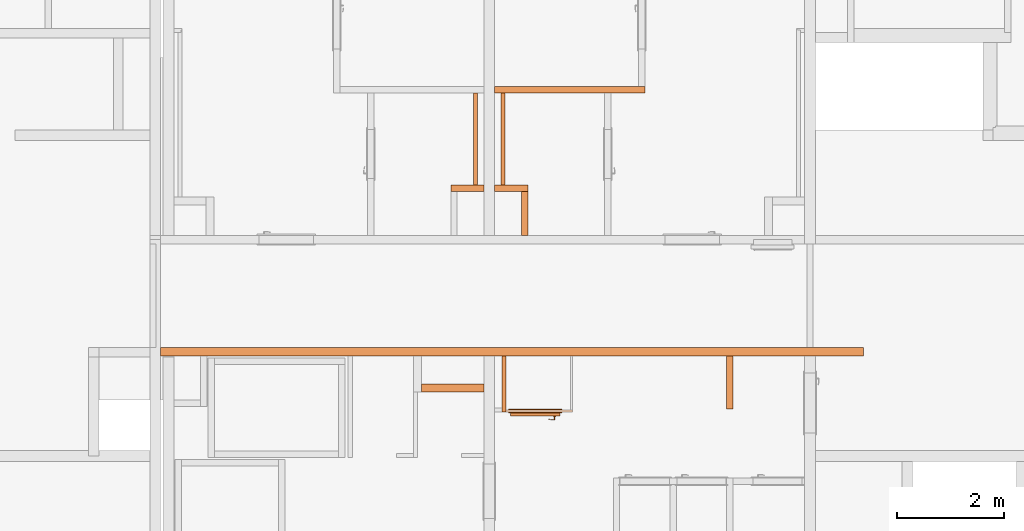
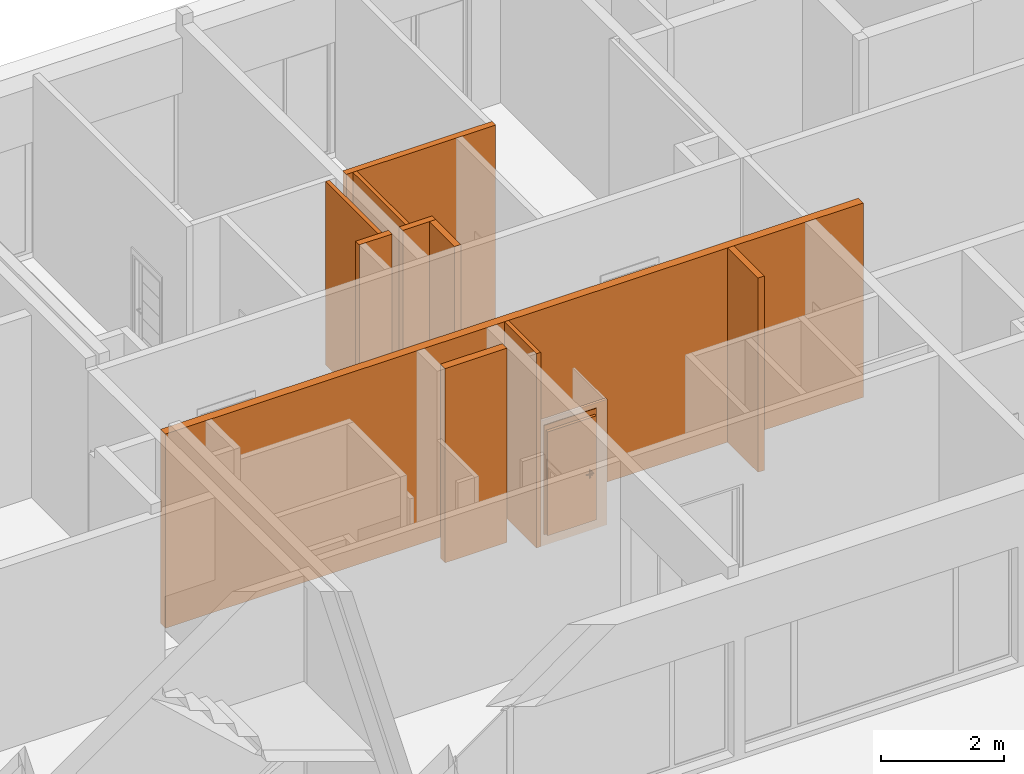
# One storey, part 35 of 46: 11 proxies, 1 opening, plus 1 element that does not belong to this part.
"""IFC2X3 building model written with IfcOpenShell, lengths in millimetres."""

from ifc_helpers import new_model, entity, si_unit, converted_unit, derived_unit, money_unit, direction, frame, origin_with_axes, origin_2d_with_axis, place, context, subcontext, project, spatial, rectangle, extrude, open_shell, faceted_brep, surface_model, material, material_list, type_object, element, fill, save


model = new_model("IFC2X3")

# Units and contexts
model_context = context("Model", 3, precision=0.01, world=origin_with_axes(), true_north=direction((0.34421633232, 0.938890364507)))
body_context = subcontext(model_context, "Body", "Model", "MODEL_VIEW")
ifc_project = project(units=[si_unit("LENGTHUNIT", "METRE", prefix="MILLI"), si_unit("AREAUNIT", "SQUARE_METRE"), si_unit("VOLUMEUNIT", "CUBIC_METRE"), converted_unit("PLANEANGLEUNIT", "DEGREE", entity("IfcPlaneAngleMeasure", 0.0174532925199), si_unit("PLANEANGLEUNIT", "RADIAN"), dimensions=[0, 0, 0, 0, 0, 0, 0]), si_unit("SOLIDANGLEUNIT", "STERADIAN"), money_unit("USD"), converted_unit("TIMEUNIT", "Year", entity("IfcTimeMeasure", 31556926.0), si_unit("TIMEUNIT", "SECOND"), dimensions=[0, 0, 1, 0, 0, 0, 0]), si_unit("MASSUNIT", "GRAM", prefix="KILO"), si_unit("THERMODYNAMICTEMPERATUREUNIT", "DEGREE_CELSIUS"), si_unit("LUMINOUSINTENSITYUNIT", "LUMEN"), si_unit("ENERGYUNIT", "JOULE", prefix="MEGA"), derived_unit("THERMALCONDUCTANCEUNIT", [(si_unit("POWERUNIT", "WATT"), 1), (si_unit("LENGTHUNIT", "METRE"), -1), (si_unit("THERMODYNAMICTEMPERATUREUNIT", "KELVIN"), -1)]), derived_unit("SPECIFICHEATCAPACITYUNIT", [(si_unit("ENERGYUNIT", "JOULE"), 1), (si_unit("MASSUNIT", "GRAM", prefix="KILO"), -1), (si_unit("THERMODYNAMICTEMPERATUREUNIT", "KELVIN"), -1)]), derived_unit("MASSDENSITYUNIT", [(si_unit("MASSUNIT", "GRAM", prefix="KILO"), 1), (si_unit("VOLUMEUNIT", "CUBIC_METRE"), -1)])], contexts=[model_context])

# Site, building, storey
site_placement = place(None, origin_with_axes())
site = spatial("IfcSite", under=ifc_project, at=site_placement, Name="USTRONIE MORSKIE", CompositionType="ELEMENT")
building_placement = place(site_placement, origin_with_axes())
building = spatial("IfcBuilding", under=site, at=building_placement, Name="Budynek", CompositionType="ELEMENT")
storey_placement = place(building_placement, origin_with_axes())
storey = spatial("IfcBuildingStorey", under=building, at=storey_placement, Name="PARTER", CompositionType="ELEMENT", Elevation=0.0)

# Proxies
ifc_material_1 = material(Name="Bloczki silikatowe")
building_element_proxy_type_1 = type_object("IfcBuildingElementProxyType", Name="Bloczki silikatowe 120", PredefinedType="NOTDEFINED")
proxy_1_placement = place(storey_placement, frame((373317.920919, 737751.199937, -230.0), z_axis=(0.0, 0.0, 1.0), x_axis=(1.0, 0.0, 0.0)))
element("IfcBuildingElementProxy", 1, at=proxy_1_placement, inside=storey, type_object=building_element_proxy_type_1, material=ifc_material_1, Name="SW-04", context=body_context, shape_type="Brep", body=[
    faceted_brep([(720.0, 120.0, 0.0), (100.0, 120.0, 0.0), (100.0, 120.0, 3869.99994569), (720.0, 120.0, 3870.0), (720.0, 0.0, 0.0), (100.0, 0.0, 0.0), (100.0, 0.0, 3869.99994569), (720.0, 0.0, 3870.0)], [[[0, 1, 2, 3]], [[4, 5, 1, 0]], [[5, 6, 2, 1]], [[3, 2, 6, 7]], [[4, 0, 3, 7]], [[7, 6, 5, 4]]]),
])
proxy_2_placement = place(storey_placement, frame((376167.928052, 739651.199937, -230.0), z_axis=(0.0, 0.0, 1.0), x_axis=(-1.0, 0.0, 0.0)))
element("IfcBuildingElementProxy", 2, at=proxy_2_placement, inside=storey, type_object=building_element_proxy_type_1, material=ifc_material_1, Name="SW-04", context=body_context, shape_type="Brep", body=[
    faceted_brep([(-60.0, -59.9999999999, 0.0), (2750.00713284, -59.9999999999, 0.0), (2750.00713284, -59.9999999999, 3869.99994569), (-60.0, -59.9999999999, 3870.0), (-60.0, 59.9999999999, 0.0), (2750.00713284, 59.9999999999, 0.0), (2750.00713284, 59.9999999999, 3869.99994569), (-60.0, 59.9999999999, 3870.0)], [[[0, 1, 2, 3]], [[4, 5, 1, 0]], [[5, 6, 2, 1]], [[3, 2, 6, 7]], [[0, 3, 7, 4]], [[7, 6, 5, 4]]]),
])
proxy_3_placement = place(storey_placement, frame((373317.920919, 737751.199937, -230.0), z_axis=(0.0, 0.0, 1.0), x_axis=(-1.0, 0.0, 0.0)))
element("IfcBuildingElementProxy", 3, at=proxy_3_placement, inside=storey, type_object=building_element_proxy_type_1, material=ifc_material_1, Name="SW-04", context=body_context, shape_type="Brep", body=[
    faceted_brep([(720.0, 0.0, 0.0), (720.0, -120.0, 0.0), (100.0, -120.0, 0.0), (100.0, 0.0, 0.0), (720.0, 0.0, 3870.0), (720.0, -120.0, 3870.0), (100.0, -120.0, 3870.0), (100.0, 0.0, 3870.0)], [[[0, 1, 2, 3]], [[1, 0, 4, 5]], [[1, 5, 6, 2]], [[7, 3, 2, 6]], [[4, 0, 3, 7]], [[5, 4, 7, 6]]]),
])
proxy_4_placement = place(storey_placement, frame((373917.920919, 737751.199937, -230.0), z_axis=(0.0, 0.0, 1.0), x_axis=(0.0, -1.0, 0.0)))
element("IfcBuildingElementProxy", 4, at=proxy_4_placement, inside=storey, type_object=building_element_proxy_type_1, material=ifc_material_1, Name="SW-04", context=body_context, shape_type="Brep", body=[
    faceted_brep([(820.00090117, 0.0, 3870.0), (820.00090117, 120.0, 3870.0), (0.0, 120.0, 3870.0), (0.0, 0.0, 3870.0), (820.00090117, 0.0, 0.0), (820.00090117, 120.0, 0.0), (0.0, 120.0, 0.0), (0.0, 0.0, 0.0)], [[[0, 1, 2, 3]], [[1, 0, 4, 5]], [[1, 5, 6, 2]], [[7, 3, 2, 6]], [[4, 0, 3, 7]], [[5, 4, 7, 6]]]),
])
proxy_5_placement = place(storey_placement, frame((377817.920919, 733681.199036, -230.0), z_axis=(0.0, 0.0, 1.0), x_axis=(0.0, 1.0, 0.0)))
element("IfcBuildingElementProxy", 5, at=proxy_5_placement, inside=storey, type_object=building_element_proxy_type_1, material=ifc_material_1, Name="SW-04", context=body_context, shape_type="Brep", body=[
    faceted_brep([(990.0, 60.0, 0.0), (990.0, -60.0, 0.0), (0.0, -60.0, 0.0), (0.0, 60.0, 0.0), (990.0, 60.0, 3870.0), (990.0, -60.0, 3870.0), (0.0, -60.0, 3870.0), (0.0, 60.0, 3870.0)], [[[0, 1, 2, 3]], [[1, 0, 4, 5]], [[1, 5, 6, 2]], [[7, 3, 2, 6]], [[4, 0, 3, 7]], [[5, 4, 7, 6]]]),
])
ifc_material_2 = material(Name="Płyta GK")
ifc_material_3 = material(Name="-Pustka powietrzna")
ifc_material_list_1 = material_list([ifc_material_2, ifc_material_2, ifc_material_3])
building_element_proxy_type_2 = type_object("IfcBuildingElementProxyType", Name="330-SD GK 2-warstwy 75", PredefinedType="NOTDEFINED")
proxy_6_placement = place(storey_placement, frame((373562.908566, 739651.199937, -180.0), z_axis=(0.0, 0.0, 1.0), x_axis=(0.0, -1.0, 0.0)))
element("IfcBuildingElementProxy", 6, at=proxy_6_placement, inside=storey, type_object=building_element_proxy_type_2, material=ifc_material_list_1, Name="Ściana-009", context=body_context, shape_type="Brep", body=[
    faceted_brep([(1780.0, 50.0, 165.0), (59.9999999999, 50.0, 165.0), (59.9999999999, 50.0, 3820.0), (1780.0, 50.0, 3820.0), (59.9999999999, 37.5, 165.0), (1780.0, 37.5, 165.0), (59.9999999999, 37.5, 3820.0), (1780.0, 37.5, 3820.0)], [[[0, 1, 2, 3]], [[4, 1, 0, 5]], [[1, 4, 6, 2]], [[7, 3, 2, 6]], [[5, 0, 3, 7]], [[4, 5, 7, 6]]]),
    faceted_brep([(1780.0, 37.5, 165.0), (59.9999999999, 37.5, 165.0), (59.9999999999, 37.5, 3820.0), (1780.0, 37.5, 3820.0), (59.9999999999, 25.0, 165.0), (1780.0, 25.0, 165.0), (59.9999999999, 25.0, 3820.0), (1780.0, 25.0, 3820.0)], [[[0, 1, 2, 3]], [[4, 1, 0, 5]], [[1, 4, 6, 2]], [[7, 3, 2, 6]], [[5, 0, 3, 7]], [[4, 5, 7, 6]]]),
    faceted_brep([(1780.0, 25.0, 180.0), (59.9999999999, 25.0, 180.0), (59.9999999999, 25.0, 3820.0), (1780.0, 25.0, 3820.0), (59.9999999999, -25.0, 180.0), (1780.0, -25.0, 180.0), (59.9999999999, -25.0, 3820.0), (1780.0, -25.0, 3820.0)], [[[0, 1, 2, 3]], [[4, 1, 0, 5]], [[1, 4, 6, 2]], [[7, 3, 2, 6]], [[5, 0, 3, 7]], [[4, 5, 7, 6]]]),
])
ifc_material_list_2 = material_list([ifc_material_3, ifc_material_2, ifc_material_2])
proxy_7_placement = place(storey_placement, frame((373072.933272, 739651.199937, -180.0), z_axis=(0.0, 0.0, 1.0), x_axis=(0.0, -1.0, 0.0)))
element("IfcBuildingElementProxy", 7, at=proxy_7_placement, inside=storey, type_object=building_element_proxy_type_2, material=ifc_material_list_2, Name="Ściana-009", context=body_context, shape_type="Brep", body=[
    faceted_brep([(1780.0, 25.0, 180.0), (59.9999999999, 25.0, 180.0), (59.9999999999, 25.0, 3820.0), (1780.0, 25.0, 3820.0), (59.9999999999, -25.0, 180.0), (1780.0, -25.0, 180.0), (59.9999999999, -25.0, 3820.0), (1780.0, -25.0, 3820.0)], [[[0, 1, 2, 3]], [[4, 1, 0, 5]], [[1, 4, 6, 2]], [[7, 3, 2, 6]], [[5, 0, 3, 7]], [[4, 5, 7, 6]]]),
    faceted_brep([(1780.0, -25.0, 165.0), (59.9999999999, -25.0, 165.0), (59.9999999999, -25.0, 3820.0), (1780.0, -25.0, 3820.0), (59.9999999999, -37.5, 165.0), (1780.0, -37.5, 165.0), (59.9999999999, -37.5, 3820.0), (1780.0, -37.5, 3820.0)], [[[0, 1, 2, 3]], [[4, 1, 0, 5]], [[1, 4, 6, 2]], [[7, 3, 2, 6]], [[5, 0, 3, 7]], [[4, 5, 7, 6]]]),
    faceted_brep([(1780.0, -37.5, 165.0), (59.9999999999, -37.5, 165.0), (59.9999999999, -37.5, 3820.0), (1780.0, -37.5, 3820.0), (59.9999999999, -50.0, 165.0), (1780.0, -50.0, 165.0), (59.9999999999, -50.0, 3820.0), (1780.0, -50.0, 3820.0)], [[[0, 1, 2, 3]], [[4, 1, 0, 5]], [[1, 4, 6, 2]], [[7, 3, 2, 6]], [[5, 0, 3, 7]], [[4, 5, 7, 6]]]),
])
building_element_proxy_type_3 = type_object("IfcBuildingElementProxyType", Name="Bloczki silikatowe 80", PredefinedType="NOTDEFINED")
proxy_8_placement = place(storey_placement, frame((373592.920919, 734751.199036, -229.999731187), z_axis=(0.0, 0.0, 1.0), x_axis=(0.0, -1.0, 0.0)))
element("IfcBuildingElementProxy", 8, at=proxy_8_placement, inside=storey, type_object=building_element_proxy_type_3, material=ifc_material_1, Name="Œciana-007", context=body_context, shape_type="Brep", body=[
    faceted_brep([(1130.0, -40.0, 3869.99973119), (1130.0, 40.0, 3869.99973119), (80.0, 40.0, 3869.99973119), (80.0, -40.0, 3869.99973119), (1130.0, -40.0, 0.0), (1130.0, 40.0, 0.0), (80.0, 40.0, 0.0), (80.0, -40.0, 0.0)], [[[0, 1, 2, 3]], [[1, 0, 4, 5]], [[1, 5, 6, 2]], [[7, 3, 2, 6]], [[4, 0, 3, 7]], [[5, 4, 7, 6]]]),
])
building_element_proxy_type_4 = type_object("IfcBuildingElementProxyType", Name="Bloczki silikatowe 150", PredefinedType="NOTDEFINED")
proxy_9_placement = place(storey_placement, frame((373317.920919, 734076.201884, -229.999731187), z_axis=(0.0, 0.0, 1.0), x_axis=(-1.0, 0.0, 0.0)))
element("IfcBuildingElementProxy", 9, at=proxy_9_placement, inside=storey, type_object=building_element_proxy_type_4, material=ifc_material_1, Name="Œciana-007", context=body_context, shape_type="Brep", body=[
    faceted_brep([(1270.0, -75.0, 3869.99973119), (1270.0, 75.0, 3869.99973119), (100.0, 75.0, 3869.99973119), (100.0, -75.0, 3869.99973119), (1270.0, -75.0, 0.0), (1270.0, 75.0, 0.0), (100.0, 75.0, 0.0), (100.0, -75.0, 0.0)], [[[0, 1, 2, 3]], [[1, 0, 4, 5]], [[1, 5, 6, 2]], [[7, 3, 2, 6]], [[4, 0, 3, 7]], [[5, 4, 7, 6]]]),
])
ifc_material_4 = material(Name="Beton konstrukcyjny B25")
building_element_proxy_type_5 = type_object("IfcBuildingElementProxyType", Name="Beton konstrukcyjny B25 160", PredefinedType="NOTDEFINED")
proxy_10_placement = place(storey_placement, frame((367167.920919, 734751.199036, -229.999735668), z_axis=(0.0, 0.0, 1.0), x_axis=(1.0, 0.0, 0.0)))
element("IfcBuildingElementProxy", 10, at=proxy_10_placement, inside=storey, type_object=building_element_proxy_type_5, material=ifc_material_4, Name="SW-01", context=body_context, shape_type="Brep", body=[
    faceted_brep([(0.0, 80.0, 3869.99973567), (0.0, -80.0, 3869.99973567), (13150.0, -80.0, 3869.99973567), (13150.0, 80.0, 3869.99973567), (0.0, 80.0, 0.0), (0.0, -80.0, 0.0), (13150.0, -80.0, 0.0), (13150.0, 80.0, 0.0)], [[[0, 1, 2, 3]], [[4, 5, 1, 0]], [[1, 5, 6, 2]], [[7, 3, 2, 6]], [[4, 0, 3, 7]], [[5, 4, 7, 6]]]),
])

# Proxies, opening
building_element_proxy_type_6 = type_object("IfcBuildingElementProxyType", Name="Bloczki silikatowe 40", PredefinedType="NOTDEFINED")
proxy_11_placement = place(storey_placement, frame((373632.920919, 733641.199036, -230.0), z_axis=(0.0, 0.0, 1.0), x_axis=(1.0, 0.0, 0.0)))
proxy_11 = element("IfcBuildingElementProxy", 11, at=proxy_11_placement, inside=storey, type_object=building_element_proxy_type_6, material=ifc_material_1, Name="Œciana-007", context=body_context, shape_type="Brep", body=[
    faceted_brep([(1245.0, 20.0, 0.0), (1245.0, -20.0, 0.0), (0.0, -20.0, 0.0), (0.0, 20.0, 0.0), (1245.0, 20.0, 2500.0), (1245.0, -20.0, 2500.0), (0.0, -20.0, 2500.0), (0.0, 20.0, 2500.0)], [[[0, 1, 2, 3]], [[1, 0, 4, 5]], [[1, 5, 6, 2]], [[7, 3, 2, 6]], [[4, 0, 3, 7]], [[5, 4, 7, 6]]]),
])
opening_placement = place(proxy_11_placement, frame((545.0, 0.0, 230.0), z_axis=(0.0, 0.0, 1.0), x_axis=(1.0, 0.0, 0.0)))
opening = element("IfcOpeningElement", 12, at=opening_placement, cuts=proxy_11, Name="Syst.", context=body_context, shape_type="SweptSolid", body=[
    extrude(rectangle(XDim=920.0, YDim=2070.0, at=origin_2d_with_axis()), frame((0.0, -40.0, 1035.0), z_axis=(0.0, 1.0, 0.0), x_axis=(-1.0, 0.0, 0.0)), (0.0, 0.0, 1.0), 120.0),
    extrude(rectangle(XDim=994.0, YDim=2177.0, at=origin_2d_with_axis()), frame((0.0, -20.0, 1088.5), z_axis=(0.0, 1.0, 0.0), x_axis=(-1.0, 0.0, 0.0)), (0.0, 0.0, -1.0), 40.0),
    extrude(rectangle(XDim=994.0, YDim=2177.0, at=origin_2d_with_axis()), frame((0.0, 20.0, 1088.5), z_axis=(0.0, -1.0, 0.0), x_axis=(-1.0, 0.0, 0.0)), (0.0, 0.0, -1.0), 40.0),
])
building_element_proxy_type_7 = type_object("IfcBuildingElementProxyType", Name="Drzwi 23", PredefinedType="NOTDEFINED")
proxy_12_placement = place(opening_placement, frame((400.0, 0.0, 0.0), z_axis=(0.0, 0.0, 1.0), x_axis=(-1.0, 0.0, 0.0)))
proxy_12 = element("IfcBuildingElementProxy", 13, at=proxy_12_placement, inside=storey, type_object=building_element_proxy_type_7, Name="Syst.", context=body_context, shape_type="SurfaceModel", body=[
    faceted_brep([(-97.0, 39.0, 0.0), (-47.0, 39.0, 0.0), (-47.0, 20.0, 0.0), (-97.0, 20.0, 0.0), (-97.0, 39.0, 2177.0), (-47.0, 39.0, 2057.0), (-47.0, 20.0, 2057.0), (-97.0, 20.0, 2177.0)], [[[0, 1, 2, 3]], [[0, 4, 5, 1]], [[1, 5, 6, 2]], [[3, 2, 6, 7]], [[4, 0, 3, 7]], [[5, 4, 7, 6]]]),
    faceted_brep([(897.0, 39.0, 2177.0), (847.0, 39.0, 2057.0), (847.0, 20.0, 2057.0), (897.0, 20.0, 2177.0), (897.0, 39.0, 0.0), (847.0, 39.0, 0.0), (847.0, 20.0, 0.0), (897.0, 20.0, 0.0)], [[[0, 1, 2, 3]], [[0, 4, 5, 1]], [[1, 5, 6, 2]], [[3, 2, 6, 7]], [[4, 0, 3, 7]], [[5, 4, 7, 6]]]),
    faceted_brep([(-97.0, 39.0, 2177.0), (-47.0, 39.0, 2057.0), (-47.0, 20.0, 2057.0), (-97.0, 20.0, 2177.0), (897.0, 39.0, 2177.0), (847.0, 39.0, 2057.0), (847.0, 20.0, 2057.0), (897.0, 20.0, 2177.0)], [[[0, 1, 2, 3]], [[0, 4, 5, 1]], [[1, 5, 6, 2]], [[3, 2, 6, 7]], [[4, 0, 3, 7]], [[5, 4, 7, 6]]]),
    faceted_brep([(-97.0, -39.0, 0.0), (-97.0, -20.0, 0.0), (-47.0, -20.0, 0.0), (-47.0, -39.0, 0.0), (-97.0, -39.0, 2177.0), (-97.0, -20.0, 2177.0), (-47.0, -20.0, 2057.0), (-47.0, -39.0, 2057.0)], [[[0, 1, 2, 3]], [[4, 5, 1, 0]], [[1, 5, 6, 2]], [[3, 2, 6, 7]], [[0, 3, 7, 4]], [[7, 6, 5, 4]]]),
    faceted_brep([(897.0, -39.0, 2177.0), (897.0, -20.0, 2177.0), (847.0, -20.0, 2057.0), (847.0, -39.0, 2057.0), (897.0, -39.0, 0.0), (897.0, -20.0, 0.0), (847.0, -20.0, 0.0), (847.0, -39.0, 0.0)], [[[0, 1, 2, 3]], [[4, 5, 1, 0]], [[1, 5, 6, 2]], [[3, 2, 6, 7]], [[0, 3, 7, 4]], [[7, 6, 5, 4]]]),
    faceted_brep([(-97.0, -39.0, 2177.0), (-97.0, -20.0, 2177.0), (-47.0, -20.0, 2057.0), (-47.0, -39.0, 2057.0), (897.0, -39.0, 2177.0), (897.0, -20.0, 2177.0), (847.0, -20.0, 2057.0), (847.0, -39.0, 2057.0)], [[[0, 1, 2, 3]], [[4, 5, 1, 0]], [[1, 5, 6, 2]], [[3, 2, 6, 7]], [[0, 3, 7, 4]], [[7, 6, 5, 4]]]),
    faceted_brep([(0.0, 55.0000000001, 0.0), (0.0, 55.0000000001, 2000.0), (0.0, -20.0, 2000.0), (0.0, -20.0, 0.0), (-12.0, 55.0000000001, 2000.0), (-12.0, 55.0000000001, 0.0), (-12.0, 95.0, 2000.0), (-60.0, 95.0, 2000.0), (-60.0, -20.0, 2000.0), (-60.0, -20.0, 0.0), (-60.0, 95.0, 0.0), (-12.0, 95.0, 0.0)], [[[0, 1, 2, 3]], [[4, 1, 0, 5]], [[4, 6, 7, 8, 2, 1]], [[3, 2, 8, 9]], [[5, 0, 3, 9, 10, 11]], [[6, 4, 5, 11]], [[6, 11, 10, 7]], [[10, 9, 8, 7]]]),
    faceted_brep([(812.0, 55.0000000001, 2000.0), (800.0, 55.0000000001, 2000.0), (800.0, -20.0, 2000.0), (860.0, -20.0, 2000.0), (860.0, 95.0, 2000.0), (812.0, 95.0, 2000.0), (812.0, 55.0000000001, 0.0), (800.0, 55.0000000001, 0.0), (800.0, -20.0, 0.0), (860.0, -20.0, 0.0), (860.0, 95.0, 0.0), (812.0, 95.0, 0.0)], [[[0, 1, 2, 3, 4, 5]], [[1, 0, 6, 7]], [[1, 7, 8, 2]], [[3, 2, 8, 9]], [[4, 3, 9, 10]], [[11, 5, 4, 10]], [[0, 5, 11, 6]], [[6, 11, 10, 9, 8, 7]]]),
    faceted_brep([(-12.0, 95.0, 2012.0), (-12.0, 95.0, 2000.0), (-60.0, 95.0, 2000.0), (-60.0, 95.0, 2070.0), (860.0, 95.0, 2070.0), (860.0, 95.0, 2000.0), (812.0, 95.0, 2000.0), (812.0, 95.0, 2012.0), (-12.0, 55.0000000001, 2012.0), (-12.0, 55.0000000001, 2000.0), (0.0, 55.0000000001, 2000.0), (0.0, -20.0, 2000.0), (-60.0, -20.0, 2000.0), (-60.0, -20.0, 2070.0), (860.0, -20.0, 2070.0), (860.0, -20.0, 2000.0), (812.0, 55.0000000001, 2000.0), (800.0, -20.0, 2000.0), (800.0, 55.0000000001, 2000.0), (812.0, 55.0000000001, 2012.0)], [[[0, 1, 2, 3, 4, 5, 6, 7]], [[1, 0, 8, 9]], [[9, 10, 11, 12, 2, 1]], [[2, 12, 13, 3]], [[3, 13, 14, 4]], [[4, 14, 15, 5]], [[16, 6, 5, 15, 17, 18]], [[7, 6, 16, 19]], [[0, 7, 19, 8]], [[16, 18, 10, 9, 8, 19]], [[10, 18, 17, 11]], [[17, 15, 14, 13, 12, 11]]]),
    faceted_brep([(9.5, 55.0000000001, 1060.0), (9.5, 52.0, 1060.0), (66.5, 52.0, 1060.0), (66.5, 55.0000000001, 1060.0), (9.5, 55.0000000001, 870.0), (9.5, 52.0, 870.0), (66.5, 52.0, 870.0), (66.5, 55.0000000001, 870.0)], [[[0, 1, 2, 3]], [[4, 5, 1, 0]], [[1, 5, 6, 2]], [[3, 2, 6, 7]], [[0, 3, 7, 4]], [[7, 6, 5, 4]]]),
    faceted_brep([(38.0, -9.00000000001, 990.0), (38.0, -16.0, 990.0), (33.0, -16.0, 991.339745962), (33.0, -9.00000000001, 991.339745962), (63.0, -9.00000000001, 990.0), (63.0, -16.0, 990.0), (63.0, -16.0, 1010.0), (38.0, -16.0, 1010.0), (33.0, -16.0, 1008.66025404), (29.3397459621, -16.0, 1005.0), (28.0, -16.0, 1000.0), (29.3397459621, -16.0, 995.0), (29.3397459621, -9.00000000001, 995.0), (28.0, -9.00000000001, 1000.0), (29.3397459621, -9.00000000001, 1005.0), (33.0, -9.00000000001, 1008.66025404), (38.0, -9.00000000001, 1010.0), (63.0, -9.00000000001, 1010.0)], [[[0, 1, 2, 3]], [[4, 5, 1, 0]], [[1, 5, 6, 7, 8, 9, 10, 11, 2]], [[3, 2, 11, 12]], [[0, 3, 12, 13, 14, 15, 16, 17, 4]], [[17, 6, 5, 4]], [[16, 7, 6, 17]], [[15, 8, 7, 16]], [[14, 9, 8, 15]], [[13, 10, 9, 14]], [[12, 11, 10, 13]]]),
    surface_model("IfcShellBasedSurfaceModel", [(63.0, -9.00000000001, 1010.0), (76.4039094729, -16.0, 1009.60730092), (76.0982828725, -9.00000000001, 1009.60730092), (63.0, -16.0, 1010.0), (103.109716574, -13.6635446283, 1008.82190275), (76.0982828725, -9.00000000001, 990.392699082), (63.0, -9.00000000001, 990.0), (63.0, -16.0, 990.0), (76.4039094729, -16.0, 990.392699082), (103.109716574, -13.6635446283, 991.178097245), (102.195162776, -6.71681885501, 1008.82190275), (102.195162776, -6.71681885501, 991.178097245), (129.510264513, -9.00841572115, 991.963495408), (129.510264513, -9.00841572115, 1008.03650459), (127.993743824, -2.1678329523, 1008.03650459), (127.993743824, -2.1678329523, 991.963495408), (155.40462918, -2.0700416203, 992.748893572), (155.40462918, -2.0700416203, 1007.25110643), (153.297683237, 4.61233717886, 1007.25110643), (153.297683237, 4.61233717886, 992.748893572), (163.461204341, 0.862311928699, 993.0), (163.461204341, 0.862311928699, 1007.0), (161.170557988, 7.47782924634, 1007.0), (161.170557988, 7.47782924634, 993.0)], [open_shell([[[0, 1, 2]], [[0, 3, 1]], [[2, 1, 4]], [[0, 2, 5, 6]], [[3, 7, 8, 1]], [[1, 8, 9, 4]], [[2, 4, 10]], [[2, 10, 11, 5]], [[5, 7, 6]], [[5, 8, 7]], [[11, 9, 8]], [[4, 9, 12, 13]], [[10, 4, 13]], [[10, 14, 15, 11]], [[11, 8, 5]], [[15, 9, 11]], [[15, 12, 9]], [[13, 12, 16, 17]], [[10, 13, 14]], [[14, 18, 19, 15]], [[19, 12, 15]], [[19, 16, 12]], [[17, 16, 20, 21]], [[14, 13, 17]], [[14, 17, 18]], [[18, 22, 23, 19]], [[23, 16, 19]], [[23, 20, 16]], [[22, 21, 20, 23]], [[18, 17, 21]], [[18, 21, 22]]])]),
    faceted_brep([(48.3923048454, 42.0, 994.0), (49.2583302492, 52.0, 993.5), (51.0, 52.0, 1000.0), (50.0, 42.0, 1000.0), (44.0, 42.0, 989.607695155), (44.5, 52.0, 988.741669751), (38.0, 52.0, 987.0), (31.5, 52.0, 988.741669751), (26.7416697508, 52.0, 993.5), (25.0, 52.0, 1000.0), (26.7416697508, 52.0, 1006.5), (31.5, 52.0, 1011.25833025), (38.0, 52.0, 1013.0), (44.5, 52.0, 1011.25833025), (49.2583302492, 52.0, 1006.5), (48.3923048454, 42.0, 1006.0), (44.0, 42.0, 1010.39230485), (38.0, 42.0, 1012.0), (32.0, 42.0, 1010.39230485), (27.6076951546, 42.0, 1006.0), (26.0, 42.0, 1000.0), (27.6076951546, 42.0, 994.0), (32.0, 42.0, 989.607695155), (38.0, 42.0, 988.0)], [[[0, 1, 2, 3]], [[4, 5, 1, 0]], [[2, 1, 5, 6, 7, 8, 9, 10, 11, 12, 13, 14]], [[3, 2, 14, 15]], [[3, 15, 16, 17, 18, 19, 20, 21, 22, 23, 4, 0]], [[23, 6, 5, 4]], [[22, 7, 6, 23]], [[21, 8, 7, 22]], [[20, 9, 8, 21]], [[19, 10, 9, 20]], [[18, 11, 10, 19]], [[17, 12, 11, 18]], [[16, 13, 12, 17]], [[15, 14, 13, 16]]]),
    faceted_brep([(55.3205080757, 48.0, 895.0), (57.0525588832, 52.0, 894.0), (60.0, 52.0, 905.0), (58.0, 48.0, 905.0), (48.0, 48.0, 887.679491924), (49.0, 52.0, 885.947441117), (38.0, 52.0, 883.0), (27.0, 52.0, 885.947441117), (18.9474411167, 52.0, 894.0), (16.0, 52.0, 905.0), (18.9474411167, 52.0, 916.0), (27.0, 52.0, 924.052558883), (38.0, 52.0, 927.0), (49.0, 52.0, 924.052558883), (57.0525588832, 52.0, 916.0), (55.3205080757, 48.0, 915.0), (48.0, 48.0, 922.320508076), (38.0, 48.0, 925.0), (28.0, 48.0, 922.320508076), (20.6794919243, 48.0, 915.0), (18.0, 48.0, 905.0), (20.6794919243, 48.0, 895.0), (28.0, 48.0, 887.679491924), (38.0, 48.0, 885.0)], [[[0, 1, 2, 3]], [[4, 5, 1, 0]], [[2, 1, 5, 6, 7, 8, 9, 10, 11, 12, 13, 14]], [[3, 2, 14, 15]], [[3, 15, 16, 17, 18, 19, 20, 21, 22, 23, 4, 0]], [[23, 6, 5, 4]], [[22, 7, 6, 23]], [[21, 8, 7, 22]], [[20, 9, 8, 21]], [[19, 10, 9, 20]], [[18, 11, 10, 19]], [[17, 12, 11, 18]], [[16, 13, 12, 17]], [[15, 14, 13, 16]]]),
    faceted_brep([(42.9497474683, 46.0, 909.050252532), (43.6568542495, 48.0, 908.343145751), (46.0, 48.0, 914.0), (45.0, 46.0, 914.0), (38.0, 46.0, 907.0), (38.0, 48.0, 906.0), (32.3431457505, 48.0, 908.343145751), (30.0, 48.0, 914.0), (32.3431457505, 48.0, 919.656854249), (38.0, 48.0, 922.0), (43.6568542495, 48.0, 919.656854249), (42.9497474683, 46.0, 918.949747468), (38.0, 46.0, 921.0), (33.0502525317, 46.0, 918.949747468), (30.9999999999, 46.0, 914.0), (33.0502525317, 46.0, 909.050252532)], [[[0, 1, 2, 3]], [[4, 5, 1, 0]], [[2, 1, 5, 6, 7, 8, 9, 10]], [[3, 2, 10, 11]], [[3, 11, 12, 13, 14, 15, 4, 0]], [[15, 6, 5, 4]], [[14, 7, 6, 15]], [[13, 8, 7, 14]], [[12, 9, 8, 13]], [[11, 10, 9, 12]]]),
    faceted_brep([(38.0, 42.0, 1010.0), (38.0, -9.00000000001, 1010.0), (42.9999999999, -9.00000000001, 1008.66025404), (42.9999999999, 42.0, 1008.66025404), (33.0, 42.0, 1008.66025404), (33.0, -9.00000000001, 1008.66025404), (29.3397459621, -9.00000000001, 1005.0), (28.0, -9.00000000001, 1000.0), (29.3397459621, -9.00000000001, 995.0), (33.0, -9.00000000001, 991.339745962), (38.0, -9.00000000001, 990.0), (42.9999999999, -9.00000000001, 991.339745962), (46.6602540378, -9.00000000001, 995.0), (48.0, -9.00000000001, 1000.0), (46.6602540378, -9.00000000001, 1005.0), (46.6602540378, 42.0, 1005.0), (48.0, 42.0, 1000.0), (46.6602540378, 42.0, 995.0), (42.9999999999, 42.0, 991.339745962), (38.0, 42.0, 990.0), (33.0, 42.0, 991.339745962), (29.3397459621, 42.0, 995.0), (28.0, 42.0, 1000.0), (29.3397459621, 42.0, 1005.0)], [[[0, 1, 2, 3]], [[4, 5, 1, 0]], [[1, 5, 6, 7, 8, 9, 10, 11, 12, 13, 14, 2]], [[3, 2, 14, 15]], [[0, 3, 15, 16, 17, 18, 19, 20, 21, 22, 23, 4]], [[23, 6, 5, 4]], [[22, 7, 6, 23]], [[21, 8, 7, 22]], [[20, 9, 8, 21]], [[19, 10, 9, 20]], [[18, 11, 10, 19]], [[17, 12, 11, 18]], [[16, 13, 12, 17]], [[15, 14, 13, 16]]]),
    faceted_brep([(9.5, 95.0, 1060.0), (66.5, 95.0, 1060.0), (66.5, 98.0000000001, 1060.0), (9.5, 98.0000000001, 1060.0), (9.5, 95.0, 870.0), (66.5, 95.0, 870.0), (66.5, 98.0000000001, 870.0), (9.5, 98.0000000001, 870.0)], [[[0, 1, 2, 3]], [[0, 4, 5, 1]], [[1, 5, 6, 2]], [[3, 2, 6, 7]], [[4, 0, 3, 7]], [[5, 4, 7, 6]]]),
    faceted_brep([(38.0, 159.0, 990.0), (33.0, 159.0, 991.339745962), (33.0, 166.0, 991.339745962), (38.0, 166.0, 990.0), (63.0, 159.0, 990.0), (63.0, 159.0, 1010.0), (38.0, 159.0, 1010.0), (33.0, 159.0, 1008.66025404), (29.3397459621, 159.0, 1005.0), (28.0, 159.0, 1000.0), (29.3397459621, 159.0, 995.0), (29.3397459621, 166.0, 995.0), (28.0, 166.0, 1000.0), (29.3397459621, 166.0, 1005.0), (33.0, 166.0, 1008.66025404), (38.0, 166.0, 1010.0), (63.0, 166.0, 1010.0), (63.0, 166.0, 990.0)], [[[0, 1, 2, 3]], [[0, 4, 5, 6, 7, 8, 9, 10, 1]], [[1, 10, 11, 2]], [[3, 2, 11, 12, 13, 14, 15, 16, 17]], [[4, 0, 3, 17]], [[5, 4, 17, 16]], [[6, 5, 16, 15]], [[7, 6, 15, 14]], [[8, 7, 14, 13]], [[9, 8, 13, 12]], [[10, 9, 12, 11]]]),
    surface_model("IfcShellBasedSurfaceModel", [(63.0, 159.0, 1010.0), (76.0982828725, 159.0, 1009.60730092), (76.4039094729, 166.0, 1009.60730092), (63.0, 159.0, 990.0), (76.0982828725, 159.0, 990.392699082), (103.109716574, 163.663544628, 1008.82190275), (63.0, 166.0, 1010.0), (63.0, 166.0, 990.0), (102.195162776, 156.716818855, 991.178097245), (102.195162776, 156.716818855, 1008.82190275), (103.109716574, 163.663544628, 991.178097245), (76.4039094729, 166.0, 990.392699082), (127.993743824, 152.167832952, 991.963495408), (127.993743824, 152.167832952, 1008.03650459), (129.510264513, 159.008415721, 1008.03650459), (129.510264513, 159.008415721, 991.963495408), (153.297683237, 145.387662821, 992.748893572), (153.297683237, 145.387662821, 1007.25110643), (155.40462918, 152.07004162, 1007.25110643), (155.40462918, 152.07004162, 992.748893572), (161.170557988, 142.522170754, 993.0), (161.170557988, 142.522170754, 1007.0), (163.461204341, 149.137688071, 1007.0), (163.461204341, 149.137688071, 993.0)], [open_shell([[[0, 1, 2]], [[0, 3, 4, 1]], [[1, 5, 2]], [[0, 2, 6]], [[4, 3, 7]], [[1, 4, 8, 9]], [[1, 9, 5]], [[2, 5, 10, 11]], [[6, 2, 11, 7]], [[4, 7, 11]], [[8, 4, 11]], [[9, 8, 12, 13]], [[9, 14, 5]], [[5, 14, 15, 10]], [[8, 11, 10]], [[12, 8, 10]], [[13, 12, 16, 17]], [[9, 13, 14]], [[14, 18, 19, 15]], [[12, 10, 15]], [[16, 12, 15]], [[17, 16, 20, 21]], [[13, 17, 18]], [[13, 18, 14]], [[18, 22, 23, 19]], [[16, 15, 19]], [[20, 16, 19]], [[21, 20, 23, 22]], [[17, 21, 22]], [[17, 22, 18]], [[20, 19, 23]]])]),
    faceted_brep([(48.3923048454, 108.0, 994.0), (50.0, 108.0, 1000.0), (51.0, 98.0000000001, 1000.0), (49.2583302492, 98.0000000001, 993.5), (44.0, 108.0, 989.607695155), (38.0, 108.0, 988.0), (32.0, 108.0, 989.607695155), (27.6076951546, 108.0, 994.0), (26.0, 108.0, 1000.0), (27.6076951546, 108.0, 1006.0), (32.0, 108.0, 1010.39230485), (38.0, 108.0, 1012.0), (44.0, 108.0, 1010.39230485), (48.3923048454, 108.0, 1006.0), (49.2583302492, 98.0000000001, 1006.5), (44.5, 98.0000000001, 1011.25833025), (38.0, 98.0000000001, 1013.0), (31.5, 98.0000000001, 1011.25833025), (26.7416697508, 98.0000000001, 1006.5), (25.0, 98.0000000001, 1000.0), (26.7416697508, 98.0000000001, 993.5), (31.5, 98.0000000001, 988.741669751), (38.0, 98.0000000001, 987.0), (44.5, 98.0000000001, 988.741669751)], [[[0, 1, 2, 3]], [[1, 0, 4, 5, 6, 7, 8, 9, 10, 11, 12, 13]], [[1, 13, 14, 2]], [[2, 14, 15, 16, 17, 18, 19, 20, 21, 22, 23, 3]], [[4, 0, 3, 23]], [[5, 4, 23, 22]], [[6, 5, 22, 21]], [[7, 6, 21, 20]], [[8, 7, 20, 19]], [[9, 8, 19, 18]], [[10, 9, 18, 17]], [[11, 10, 17, 16]], [[12, 11, 16, 15]], [[13, 12, 15, 14]]]),
    faceted_brep([(55.3205080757, 102.0, 895.0), (58.0, 102.0, 905.0), (60.0, 98.0000000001, 905.0), (57.0525588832, 98.0000000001, 894.0), (48.0, 102.0, 887.679491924), (38.0, 102.0, 885.0), (28.0, 102.0, 887.679491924), (20.6794919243, 102.0, 895.0), (18.0, 102.0, 905.0), (20.6794919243, 102.0, 915.0), (28.0, 102.0, 922.320508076), (38.0, 102.0, 925.0), (48.0, 102.0, 922.320508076), (55.3205080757, 102.0, 915.0), (57.0525588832, 98.0000000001, 916.0), (49.0, 98.0000000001, 924.052558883), (38.0, 98.0000000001, 927.0), (27.0, 98.0000000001, 924.052558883), (18.9474411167, 98.0000000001, 916.0), (16.0, 98.0000000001, 905.0), (18.9474411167, 98.0000000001, 894.0), (27.0, 98.0000000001, 885.947441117), (38.0, 98.0000000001, 883.0), (49.0, 98.0000000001, 885.947441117)], [[[0, 1, 2, 3]], [[1, 0, 4, 5, 6, 7, 8, 9, 10, 11, 12, 13]], [[1, 13, 14, 2]], [[2, 14, 15, 16, 17, 18, 19, 20, 21, 22, 23, 3]], [[4, 0, 3, 23]], [[5, 4, 23, 22]], [[6, 5, 22, 21]], [[7, 6, 21, 20]], [[8, 7, 20, 19]], [[9, 8, 19, 18]], [[10, 9, 18, 17]], [[11, 10, 17, 16]], [[12, 11, 16, 15]], [[13, 12, 15, 14]]]),
    faceted_brep([(42.9497474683, 104.0, 909.050252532), (45.0, 104.0, 914.0), (46.0, 102.0, 914.0), (43.6568542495, 102.0, 908.343145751), (38.0, 104.0, 907.0), (33.0502525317, 104.0, 909.050252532), (30.9999999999, 104.0, 914.0), (33.0502525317, 104.0, 918.949747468), (38.0, 104.0, 921.0), (42.9497474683, 104.0, 918.949747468), (43.6568542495, 102.0, 919.656854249), (38.0, 102.0, 922.0), (32.3431457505, 102.0, 919.656854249), (30.0, 102.0, 914.0), (32.3431457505, 102.0, 908.343145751), (38.0, 102.0, 906.0)], [[[0, 1, 2, 3]], [[1, 0, 4, 5, 6, 7, 8, 9]], [[1, 9, 10, 2]], [[2, 10, 11, 12, 13, 14, 15, 3]], [[4, 0, 3, 15]], [[5, 4, 15, 14]], [[6, 5, 14, 13]], [[7, 6, 13, 12]], [[8, 7, 12, 11]], [[9, 8, 11, 10]]]),
    faceted_brep([(38.0, 108.0, 1010.0), (42.9999999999, 108.0, 1008.66025404), (42.9999999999, 159.0, 1008.66025404), (38.0, 159.0, 1010.0), (33.0, 108.0, 1008.66025404), (29.3397459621, 108.0, 1005.0), (28.0, 108.0, 1000.0), (29.3397459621, 108.0, 995.0), (33.0, 108.0, 991.339745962), (38.0, 108.0, 990.0), (42.9999999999, 108.0, 991.339745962), (46.6602540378, 108.0, 995.0), (48.0, 108.0, 1000.0), (46.6602540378, 108.0, 1005.0), (46.6602540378, 159.0, 1005.0), (48.0, 159.0, 1000.0), (46.6602540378, 159.0, 995.0), (42.9999999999, 159.0, 991.339745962), (38.0, 159.0, 990.0), (33.0, 159.0, 991.339745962), (29.3397459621, 159.0, 995.0), (28.0, 159.0, 1000.0), (29.3397459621, 159.0, 1005.0), (33.0, 159.0, 1008.66025404)], [[[0, 1, 2, 3]], [[0, 4, 5, 6, 7, 8, 9, 10, 11, 12, 13, 1]], [[1, 13, 14, 2]], [[3, 2, 14, 15, 16, 17, 18, 19, 20, 21, 22, 23]], [[4, 0, 3, 23]], [[5, 4, 23, 22]], [[6, 5, 22, 21]], [[7, 6, 21, 20]], [[8, 7, 20, 19]], [[9, 8, 19, 18]], [[10, 9, 18, 17]], [[11, 10, 17, 16]], [[12, 11, 16, 15]], [[13, 12, 15, 14]]]),
    faceted_brep([(812.0, 95.0, 0.0), (812.0, 55.0000000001, 0.0), (-12.0, 55.0000000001, 0.0), (-12.0, 95.0, 0.0), (812.0, 95.0, 2012.0), (812.0, 55.0000000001, 2012.0), (-12.0, 55.0000000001, 2012.0), (-12.0, 95.0, 2012.0)], [[[0, 1, 2, 3]], [[4, 5, 1, 0]], [[1, 5, 6, 2]], [[3, 2, 6, 7]], [[0, 3, 7, 4]], [[7, 6, 5, 4]]]),
])
fill(opening, proxy_12)

save(model, "model.ifc")
